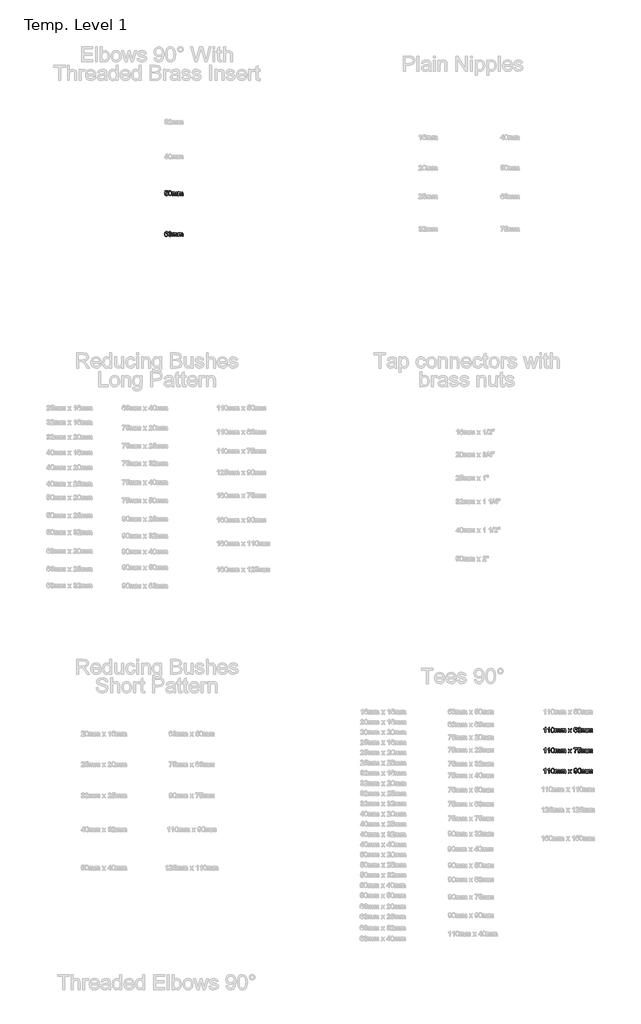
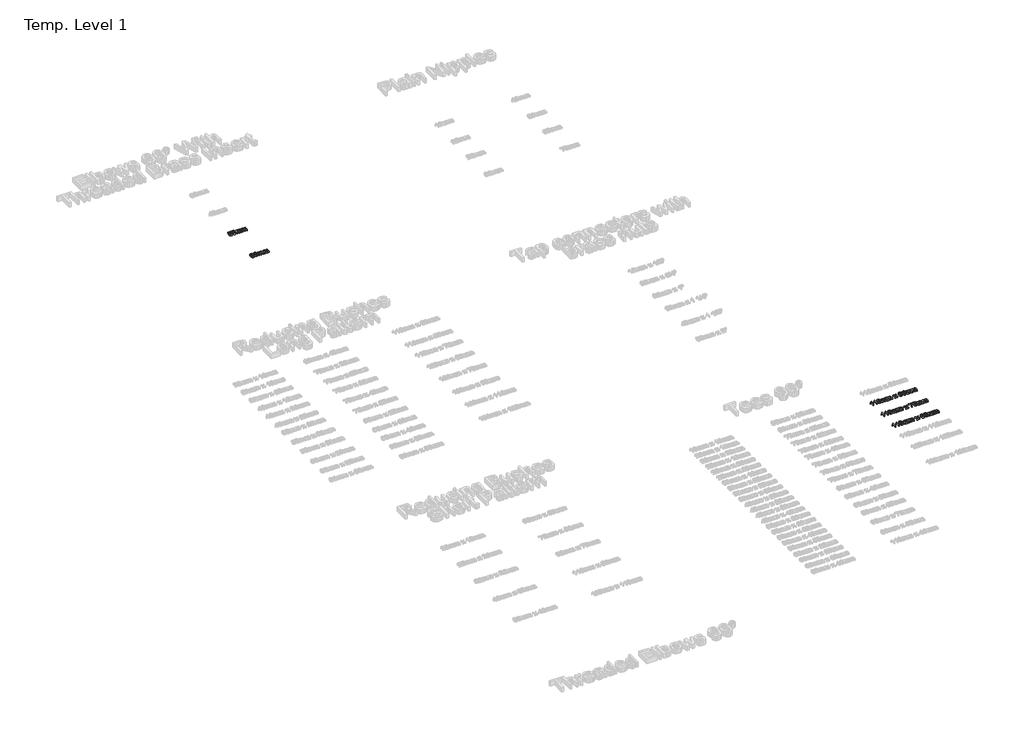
# One storey, part 50 of 62: 5 proxies.
"""IFC4 building model written with IfcOpenShell, lengths in millimetres."""

from ifc_helpers import new_model, si_unit, origin, origin_with_axes, place, context, project, spatial, polyline, outline, extrude, element, save

model = new_model("IFC4")

# Units and contexts
model_context = context("Model", 3, world=origin())
ifc_project = project(units=[si_unit("LENGTHUNIT", "METRE", prefix="MILLI")], contexts=[model_context])

# Site, building, storey
site = spatial("IfcSite", under=ifc_project)
building = spatial("IfcBuilding", under=site)
storey = spatial("IfcBuildingStorey", under=building, Name="Temp. Level 1", Elevation=0.0)

# Proxies
placement = place(None, origin())
element("IfcBuildingElementProxy", 1, Name="50mm Arial", ObjectType="50mm Arial", at=placement, inside=storey, context=model_context, shape_type="SweptSolid", body=[
    extrude(outline(polyline([(24495.3245939, -2277.1215939), (24501.4784401, -2276.3523632), (24504.5794016, -2282.6925074), (24511.0096901, -2284.8139016), (24518.7260362, -2281.8631805), (24521.4784401, -2274.0326516), (24518.9003151, -2266.7249593), (24511.1058439, -2264.0446709), (24505.7031997, -2265.1143824), (24502.2476708, -2267.8908247), (24496.0938247, -2267.1215939), (24501.4784401, -2241.7369786), (24525.3245939, -2241.7369786), (24525.3245939, -2247.8908247), (24506.4544016, -2247.8908247), (24503.8221901, -2261.448517), (24512.8245939, -2257.8908247), (24523.3474304, -2262.3018824), (24527.6322862, -2273.6480362), (24523.7741131, -2285.0663055), (24518.2332477, -2289.4923872), (24510.9856516, -2290.9677478), (24500.1262766, -2287.1756805), (24495.3245939, -2277.1215939)])), origin_with_axes(), (0.0, 0.0, 1.0), 15.0),
    extrude(outline(polyline([(24533.0169016, -2265.979767), (24534.8257958, -2251.8151036), (24540.198392, -2243.6480362), (24549.1707477, -2240.9677478), (24556.3582477, -2242.5542862), (24561.3221901, -2247.1276036), (24564.2068054, -2254.4112574), (24565.3245939, -2265.979767), (24563.5337285, -2280.0843343), (24558.1791612, -2288.2694305), (24549.1707477, -2290.9677478), (24537.9207477, -2286.2802478), (24534.2428631, -2277.9539257), (24533.0169016, -2265.979767)]), holes=[polyline([(24539.1707477, -2265.9677478), (24542.0553631, -2281.2501997), (24549.1707477, -2284.8139016), (24556.2861324, -2281.2381805), (24559.1707477, -2265.9677478), (24556.3822862, -2250.8595747), (24549.0986324, -2247.1215939), (24542.151517, -2250.4148632), (24539.1707477, -2265.9677478)])]), origin_with_axes(), (0.0, 0.0, 1.0), 15.0),
    extrude(outline(polyline([(24572.2476708, -2290.198517), (24572.2476708, -2254.0446709), (24578.401517, -2254.0446709), (24578.401517, -2259.9941901), (24582.6322862, -2255.120392), (24588.6539208, -2253.2754401), (24594.8197862, -2255.1564497), (24598.2092093, -2260.4268824), (24603.010892, -2255.0633007), (24609.0745939, -2253.2754401), (24617.1214689, -2256.2501997), (24619.9399785, -2265.4148632), (24619.9399785, -2290.198517), (24613.7861324, -2290.198517), (24613.7861324, -2268.0590939), (24613.2152189, -2262.9208728), (24611.1479112, -2260.3908247), (24607.6322862, -2259.4292862), (24601.5806035, -2261.8932286), (24599.1707477, -2269.7898632), (24599.1707477, -2290.198517), (24593.0169016, -2290.198517), (24593.0169016, -2267.3739978), (24591.5926227, -2261.4124593), (24586.9231516, -2259.4292862), (24582.3678631, -2260.7514016), (24579.339017, -2264.6215939), (24578.401517, -2271.9653439), (24578.401517, -2290.198517), (24572.2476708, -2290.198517)])), origin_with_axes(), (0.0, 0.0, 1.0), 15.0),
    extrude(outline(polyline([(24629.1707477, -2290.198517), (24629.1707477, -2254.0446709), (24635.3245939, -2254.0446709), (24635.3245939, -2259.9941901), (24639.5553631, -2255.120392), (24645.5769977, -2253.2754401), (24651.7428631, -2255.1564497), (24655.1322862, -2260.4268824), (24659.9339689, -2255.0633007), (24665.9976708, -2253.2754401), (24674.0445458, -2256.2501997), (24676.8630554, -2265.4148632), (24676.8630554, -2290.198517), (24670.7092093, -2290.198517), (24670.7092093, -2268.0590939), (24670.1382958, -2262.9208728), (24668.0709881, -2260.3908247), (24664.5553631, -2259.4292862), (24658.5036804, -2261.8932286), (24656.0938247, -2269.7898632), (24656.0938247, -2290.198517), (24649.9399785, -2290.198517), (24649.9399785, -2267.3739978), (24648.5156997, -2261.4124593), (24643.8462285, -2259.4292862), (24639.2909401, -2260.7514016), (24636.2620939, -2264.6215939), (24635.3245939, -2271.9653439), (24635.3245939, -2290.198517), (24629.1707477, -2290.198517)])), origin_with_axes(), (0.0, 0.0, 1.0), 15.0),
])
element("IfcBuildingElementProxy", 2, Name="50mm Arial", ObjectType="50mm Arial", at=placement, inside=storey, context=model_context, shape_type="SweptSolid", body=[
    extrude(outline(polyline([(24526.8630554, -2654.0446709), (24520.7092093, -2654.8139016), (24518.3774785, -2649.6816901), (24512.2116131, -2647.1215939), (24506.6587285, -2648.6119786), (24502.4580074, -2654.2069305), (24500.7092093, -2665.1744786), (24506.135892, -2660.2646228), (24512.8606516, -2658.6600555), (24523.3173824, -2663.0470747), (24527.6322862, -2674.3812093), (24525.6010362, -2682.8727959), (24520.0120939, -2688.8824112), (24511.9471901, -2690.9677478), (24499.4051227, -2685.4389016), (24495.767803, -2678.1191901), (24494.5553631, -2667.2177478), (24495.901517, -2654.9611372), (24499.9399785, -2646.5807286), (24505.4538006, -2642.370993), (24512.5962285, -2640.9677478), (24522.3197862, -2644.4413055), (24526.8630554, -2654.0446709)]), holes=[polyline([(24500.7092093, -2674.2850555), (24502.1334881, -2679.6155843), (24505.9195458, -2683.4857766), (24511.4664208, -2684.8139016), (24518.7200266, -2682.0614978), (24521.4784401, -2674.5855362), (24518.7560843, -2667.4280843), (24511.214017, -2664.8139016), (24503.7681035, -2667.4280843), (24500.7092093, -2674.2850555)])]), origin_with_axes(), (0.0, 0.0, 1.0), 15.0),
    extrude(outline(polyline([(24533.0169016, -2677.1215939), (24539.1707477, -2676.3523632), (24542.5661804, -2682.8307286), (24548.9183439, -2684.8139016), (24556.3943054, -2682.0855362), (24559.1707477, -2675.3307286), (24556.4183439, -2668.9665459), (24549.4231516, -2666.448517), (24545.1082477, -2667.1215939), (24545.7933439, -2660.9677478), (24553.7620939, -2659.2730362), (24556.8630554, -2653.8403439), (24554.6154593, -2649.026642), (24548.8221901, -2647.1215939), (24542.9568054, -2649.0446709), (24539.9399785, -2654.8139016), (24533.7861324, -2654.0446709), (24538.8221901, -2644.3932286), (24548.6058439, -2640.9677478), (24556.0277189, -2642.6564497), (24561.2200266, -2647.2718343), (24563.0169016, -2653.479767), (24561.3101708, -2659.1528439), (24556.2620939, -2663.2273632), (24562.9688247, -2667.4340939), (24565.3245939, -2675.4389016), (24560.6130554, -2686.448517), (24548.7019977, -2690.9677478), (24537.9087285, -2687.1095747), (24533.0169016, -2677.1215939)])), origin_with_axes(), (0.0, 0.0, 1.0), 15.0),
    extrude(outline(polyline([(24572.2476708, -2690.198517), (24572.2476708, -2654.0446709), (24578.401517, -2654.0446709), (24578.401517, -2659.9941901), (24582.6322862, -2655.120392), (24588.6539208, -2653.2754401), (24594.8197862, -2655.1564497), (24598.2092093, -2660.4268824), (24603.010892, -2655.0633007), (24609.0745939, -2653.2754401), (24617.1214689, -2656.2501997), (24619.9399785, -2665.4148632), (24619.9399785, -2690.198517), (24613.7861324, -2690.198517), (24613.7861324, -2668.0590939), (24613.2152189, -2662.9208728), (24611.1479112, -2660.3908247), (24607.6322862, -2659.4292862), (24601.5806035, -2661.8932286), (24599.1707477, -2669.7898632), (24599.1707477, -2690.198517), (24593.0169016, -2690.198517), (24593.0169016, -2667.3739978), (24591.5926227, -2661.4124593), (24586.9231516, -2659.4292862), (24582.3678631, -2660.7514016), (24579.339017, -2664.6215939), (24578.401517, -2671.9653439), (24578.401517, -2690.198517), (24572.2476708, -2690.198517)])), origin_with_axes(), (0.0, 0.0, 1.0), 15.0),
    extrude(outline(polyline([(24629.1707477, -2690.198517), (24629.1707477, -2654.0446709), (24635.3245939, -2654.0446709), (24635.3245939, -2659.9941901), (24639.5553631, -2655.120392), (24645.5769977, -2653.2754401), (24651.7428631, -2655.1564497), (24655.1322862, -2660.4268824), (24659.9339689, -2655.0633007), (24665.9976708, -2653.2754401), (24674.0445458, -2656.2501997), (24676.8630554, -2665.4148632), (24676.8630554, -2690.198517), (24670.7092093, -2690.198517), (24670.7092093, -2668.0590939), (24670.1382958, -2662.9208728), (24668.0709881, -2660.3908247), (24664.5553631, -2659.4292862), (24658.5036804, -2661.8932286), (24656.0938247, -2669.7898632), (24656.0938247, -2690.198517), (24649.9399785, -2690.198517), (24649.9399785, -2667.3739978), (24648.5156997, -2661.4124593), (24643.8462285, -2659.4292862), (24639.2909401, -2660.7514016), (24636.2620939, -2664.6215939), (24635.3245939, -2671.9653439), (24635.3245939, -2690.198517), (24629.1707477, -2690.198517)])), origin_with_axes(), (0.0, 0.0, 1.0), 15.0),
])
element("IfcBuildingElementProxy", 3, Name="50mm Arial", ObjectType="50mm Arial", at=placement, inside=storey, context=model_context, shape_type="SweptSolid", body=[
    extrude(outline(polyline([(28231.5860907, -7549.5564984), (28225.4322446, -7549.5564984), (28225.4322446, -7511.1911138), (28219.6029177, -7515.3437581), (28213.1245523, -7518.4507292), (28213.1245523, -7512.6334215), (28222.144985, -7506.87621), (28227.6197446, -7500.3257292), (28231.5860907, -7500.3257292), (28231.5860907, -7549.5564984)])), origin_with_axes(), (0.0, 0.0, 1.0), 15.0),
    extrude(outline(polyline([(28269.2783984, -7549.5564984), (28263.1245523, -7549.5564984), (28263.1245523, -7511.1911138), (28257.2952253, -7515.3437581), (28250.81686, -7518.4507292), (28250.81686, -7512.6334215), (28259.8372927, -7506.87621), (28265.3120523, -7500.3257292), (28269.2783984, -7500.3257292), (28269.2783984, -7549.5564984)])), origin_with_axes(), (0.0, 0.0, 1.0), 15.0),
    extrude(outline(polyline([(28283.893783, -7525.3377484), (28285.7026773, -7511.173085), (28291.0752734, -7503.0060177), (28300.0476292, -7500.3257292), (28307.2351292, -7501.9122677), (28312.1990715, -7506.485585), (28315.0836869, -7513.7692388), (28316.2014753, -7525.3377484), (28314.41061, -7539.4423158), (28309.0560427, -7547.6274119), (28300.0476292, -7550.3257292), (28288.7976292, -7545.6382292), (28285.1197446, -7537.3119071), (28283.893783, -7525.3377484)]), holes=[polyline([(28290.0476292, -7525.3257292), (28292.9322446, -7540.6081811), (28300.0476292, -7544.1718831), (28307.1630138, -7540.5961619), (28310.0476292, -7525.3257292), (28307.2591677, -7510.2175561), (28299.9755138, -7506.4795754), (28293.0283984, -7509.7728446), (28290.0476292, -7525.3257292)])]), origin_with_axes(), (0.0, 0.0, 1.0), 15.0),
    extrude(outline(polyline([(28323.1245523, -7549.5564984), (28323.1245523, -7513.4026523), (28329.2783984, -7513.4026523), (28329.2783984, -7519.3521715), (28333.5091677, -7514.4783734), (28339.5308023, -7512.6334215), (28345.6966677, -7514.5144311), (28349.0860907, -7519.7848638), (28353.8877734, -7514.4212821), (28359.9514753, -7512.6334215), (28367.9983503, -7515.6081811), (28370.81686, -7524.7728446), (28370.81686, -7549.5564984), (28364.6630138, -7549.5564984), (28364.6630138, -7527.4170754), (28364.0921003, -7522.2788542), (28362.0247927, -7519.7488061), (28358.5091677, -7518.7872677), (28352.457485, -7521.25121), (28350.0476292, -7529.1478446), (28350.0476292, -7549.5564984), (28343.893783, -7549.5564984), (28343.893783, -7526.7319792), (28342.4695042, -7520.7704408), (28337.800033, -7518.7872677), (28333.2447446, -7520.1093831), (28330.2158984, -7523.9795754), (28329.2783984, -7531.3233254), (28329.2783984, -7549.5564984), (28323.1245523, -7549.5564984)])), origin_with_axes(), (0.0, 0.0, 1.0), 15.0),
    extrude(outline(polyline([(28380.0476292, -7549.5564984), (28380.0476292, -7513.4026523), (28386.2014753, -7513.4026523), (28386.2014753, -7519.3521715), (28390.4322446, -7514.4783734), (28396.4538792, -7512.6334215), (28402.6197446, -7514.5144311), (28406.0091677, -7519.7848638), (28410.8108503, -7514.4212821), (28416.8745523, -7512.6334215), (28424.9214273, -7515.6081811), (28427.7399369, -7524.7728446), (28427.7399369, -7549.5564984), (28421.5860907, -7549.5564984), (28421.5860907, -7527.4170754), (28421.0151773, -7522.2788542), (28418.9478696, -7519.7488061), (28415.4322446, -7518.7872677), (28409.3805619, -7521.25121), (28406.9707061, -7529.1478446), (28406.9707061, -7549.5564984), (28400.81686, -7549.5564984), (28400.81686, -7526.7319792), (28399.3925811, -7520.7704408), (28394.72311, -7518.7872677), (28390.1678215, -7520.1093831), (28387.1389753, -7523.9795754), (28386.2014753, -7531.3233254), (28386.2014753, -7549.5564984), (28380.0476292, -7549.5564984)])), origin_with_axes(), (0.0, 0.0, 1.0), 15.0),
    extrude(outline(polyline([(28452.3553215, -7549.5564984), (28465.50436, -7531.3834215), (28453.1245523, -7513.4026523), (28460.5283984, -7513.4026523), (28466.5019561, -7522.0564984), (28469.2904177, -7526.1430369), (28471.706283, -7522.8016908), (28478.5091677, -7513.4026523), (28485.9130138, -7513.4026523), (28472.9082061, -7531.3834215), (28485.4322446, -7549.5564984), (28478.0283984, -7549.5564984), (28470.4923407, -7538.6310177), (28469.1101292, -7536.6358254), (28459.7591677, -7549.5564984), (28452.3553215, -7549.5564984)])), origin_with_axes(), (0.0, 0.0, 1.0), 15.0),
    extrude(outline(polyline([(28540.0476292, -7513.4026523), (28533.893783, -7514.1718831), (28531.5620523, -7509.0396715), (28525.3961869, -7506.4795754), (28519.8433023, -7507.96996), (28515.6425811, -7513.5649119), (28513.893783, -7524.53246), (28519.3204657, -7519.6226042), (28526.0452253, -7518.0180369), (28536.5019561, -7522.4050561), (28540.81686, -7533.7391908), (28538.78561, -7542.2307773), (28533.1966677, -7548.2403927), (28525.1317638, -7550.3257292), (28512.5896965, -7544.7968831), (28508.9523768, -7537.4771715), (28507.7399369, -7526.5757292), (28509.0860907, -7514.3191186), (28513.1245523, -7505.93871), (28518.6383744, -7501.7289744), (28525.7808023, -7500.3257292), (28535.50436, -7503.7992869), (28540.0476292, -7513.4026523)]), holes=[polyline([(28513.893783, -7533.6430369), (28515.3180619, -7538.9735658), (28519.1041196, -7542.8437581), (28524.6509946, -7544.1718831), (28531.9046003, -7541.4194792), (28534.6630138, -7533.9435177), (28531.940658, -7526.7860658), (28524.3985907, -7524.1718831), (28516.9526773, -7526.7860658), (28513.893783, -7533.6430369)])]), origin_with_axes(), (0.0, 0.0, 1.0), 15.0),
    extrude(outline(polyline([(28546.2014753, -7536.4795754), (28552.3553215, -7535.7103446), (28555.7507542, -7542.18871), (28562.1029177, -7544.1718831), (28569.5788792, -7541.4435177), (28572.3553215, -7534.68871), (28569.6029177, -7528.3245273), (28562.6077253, -7525.8064984), (28558.2928215, -7526.4795754), (28558.9779177, -7520.3257292), (28566.9466677, -7518.6310177), (28570.0476292, -7513.1983254), (28567.800033, -7508.3846234), (28562.0067638, -7506.4795754), (28556.1413792, -7508.4026523), (28553.1245523, -7514.1718831), (28546.9707061, -7513.4026523), (28552.0067638, -7503.75121), (28561.7904177, -7500.3257292), (28569.2122927, -7502.0144311), (28574.4046003, -7506.6298158), (28576.2014753, -7512.8377484), (28574.4947446, -7518.5108254), (28569.4466677, -7522.5853446), (28576.1533984, -7526.7920754), (28578.5091677, -7534.7968831), (28573.7976292, -7545.8064984), (28561.8865715, -7550.3257292), (28551.0933023, -7546.4675561), (28546.2014753, -7536.4795754)])), origin_with_axes(), (0.0, 0.0, 1.0), 15.0),
    extrude(outline(polyline([(28585.4322446, -7549.5564984), (28585.4322446, -7513.4026523), (28591.5860907, -7513.4026523), (28591.5860907, -7519.3521715), (28595.81686, -7514.4783734), (28601.8384946, -7512.6334215), (28608.00436, -7514.5144311), (28611.393783, -7519.7848638), (28616.1954657, -7514.4212821), (28622.2591677, -7512.6334215), (28630.3060427, -7515.6081811), (28633.1245523, -7524.7728446), (28633.1245523, -7549.5564984), (28626.9707061, -7549.5564984), (28626.9707061, -7527.4170754), (28626.3997927, -7522.2788542), (28624.332485, -7519.7488061), (28620.81686, -7518.7872677), (28614.7651773, -7521.25121), (28612.3553215, -7529.1478446), (28612.3553215, -7549.5564984), (28606.2014753, -7549.5564984), (28606.2014753, -7526.7319792), (28604.7771965, -7520.7704408), (28600.1077253, -7518.7872677), (28595.5524369, -7520.1093831), (28592.5235907, -7523.9795754), (28591.5860907, -7531.3233254), (28591.5860907, -7549.5564984), (28585.4322446, -7549.5564984)])), origin_with_axes(), (0.0, 0.0, 1.0), 15.0),
    extrude(outline(polyline([(28642.3553215, -7549.5564984), (28642.3553215, -7513.4026523), (28648.5091677, -7513.4026523), (28648.5091677, -7519.3521715), (28652.7399369, -7514.4783734), (28658.7615715, -7512.6334215), (28664.9274369, -7514.5144311), (28668.31686, -7519.7848638), (28673.1185427, -7514.4212821), (28679.1822446, -7512.6334215), (28687.2291196, -7515.6081811), (28690.0476292, -7524.7728446), (28690.0476292, -7549.5564984), (28683.893783, -7549.5564984), (28683.893783, -7527.4170754), (28683.3228696, -7522.2788542), (28681.2555619, -7519.7488061), (28677.7399369, -7518.7872677), (28671.6882542, -7521.25121), (28669.2783984, -7529.1478446), (28669.2783984, -7549.5564984), (28663.1245523, -7549.5564984), (28663.1245523, -7526.7319792), (28661.7002734, -7520.7704408), (28657.0308023, -7518.7872677), (28652.4755138, -7520.1093831), (28649.4466677, -7523.9795754), (28648.5091677, -7531.3233254), (28648.5091677, -7549.5564984), (28642.3553215, -7549.5564984)])), origin_with_axes(), (0.0, 0.0, 1.0), 15.0),
])
element("IfcBuildingElementProxy", 4, Name="50mm Arial", ObjectType="50mm Arial", at=placement, inside=storey, context=model_context, shape_type="SweptSolid", body=[
    extrude(outline(polyline([(28231.5860907, -7749.5564984), (28225.4322446, -7749.5564984), (28225.4322446, -7711.1911138), (28219.6029177, -7715.3437581), (28213.1245523, -7718.4507292), (28213.1245523, -7712.6334215), (28222.144985, -7706.87621), (28227.6197446, -7700.3257292), (28231.5860907, -7700.3257292), (28231.5860907, -7749.5564984)])), origin_with_axes(), (0.0, 0.0, 1.0), 15.0),
    extrude(outline(polyline([(28269.2783984, -7749.5564984), (28263.1245523, -7749.5564984), (28263.1245523, -7711.1911138), (28257.2952253, -7715.3437581), (28250.81686, -7718.4507292), (28250.81686, -7712.6334215), (28259.8372927, -7706.87621), (28265.3120523, -7700.3257292), (28269.2783984, -7700.3257292), (28269.2783984, -7749.5564984)])), origin_with_axes(), (0.0, 0.0, 1.0), 15.0),
    extrude(outline(polyline([(28283.893783, -7725.3377484), (28285.7026773, -7711.173085), (28291.0752734, -7703.0060177), (28300.0476292, -7700.3257292), (28307.2351292, -7701.9122677), (28312.1990715, -7706.485585), (28315.0836869, -7713.7692388), (28316.2014753, -7725.3377484), (28314.41061, -7739.4423158), (28309.0560427, -7747.6274119), (28300.0476292, -7750.3257292), (28288.7976292, -7745.6382292), (28285.1197446, -7737.3119071), (28283.893783, -7725.3377484)]), holes=[polyline([(28290.0476292, -7725.3257292), (28292.9322446, -7740.6081811), (28300.0476292, -7744.1718831), (28307.1630138, -7740.5961619), (28310.0476292, -7725.3257292), (28307.2591677, -7710.2175561), (28299.9755138, -7706.4795754), (28293.0283984, -7709.7728446), (28290.0476292, -7725.3257292)])]), origin_with_axes(), (0.0, 0.0, 1.0), 15.0),
    extrude(outline(polyline([(28323.1245523, -7749.5564984), (28323.1245523, -7713.4026523), (28329.2783984, -7713.4026523), (28329.2783984, -7719.3521715), (28333.5091677, -7714.4783734), (28339.5308023, -7712.6334215), (28345.6966677, -7714.5144311), (28349.0860907, -7719.7848638), (28353.8877734, -7714.4212821), (28359.9514753, -7712.6334215), (28367.9983503, -7715.6081811), (28370.81686, -7724.7728446), (28370.81686, -7749.5564984), (28364.6630138, -7749.5564984), (28364.6630138, -7727.4170754), (28364.0921003, -7722.2788542), (28362.0247927, -7719.7488061), (28358.5091677, -7718.7872677), (28352.457485, -7721.25121), (28350.0476292, -7729.1478446), (28350.0476292, -7749.5564984), (28343.893783, -7749.5564984), (28343.893783, -7726.7319792), (28342.4695042, -7720.7704408), (28337.800033, -7718.7872677), (28333.2447446, -7720.1093831), (28330.2158984, -7723.9795754), (28329.2783984, -7731.3233254), (28329.2783984, -7749.5564984), (28323.1245523, -7749.5564984)])), origin_with_axes(), (0.0, 0.0, 1.0), 15.0),
    extrude(outline(polyline([(28380.0476292, -7749.5564984), (28380.0476292, -7713.4026523), (28386.2014753, -7713.4026523), (28386.2014753, -7719.3521715), (28390.4322446, -7714.4783734), (28396.4538792, -7712.6334215), (28402.6197446, -7714.5144311), (28406.0091677, -7719.7848638), (28410.8108503, -7714.4212821), (28416.8745523, -7712.6334215), (28424.9214273, -7715.6081811), (28427.7399369, -7724.7728446), (28427.7399369, -7749.5564984), (28421.5860907, -7749.5564984), (28421.5860907, -7727.4170754), (28421.0151773, -7722.2788542), (28418.9478696, -7719.7488061), (28415.4322446, -7718.7872677), (28409.3805619, -7721.25121), (28406.9707061, -7729.1478446), (28406.9707061, -7749.5564984), (28400.81686, -7749.5564984), (28400.81686, -7726.7319792), (28399.3925811, -7720.7704408), (28394.72311, -7718.7872677), (28390.1678215, -7720.1093831), (28387.1389753, -7723.9795754), (28386.2014753, -7731.3233254), (28386.2014753, -7749.5564984), (28380.0476292, -7749.5564984)])), origin_with_axes(), (0.0, 0.0, 1.0), 15.0),
    extrude(outline(polyline([(28452.3553215, -7749.5564984), (28465.50436, -7731.3834215), (28453.1245523, -7713.4026523), (28460.5283984, -7713.4026523), (28466.5019561, -7722.0564984), (28469.2904177, -7726.1430369), (28471.706283, -7722.8016908), (28478.5091677, -7713.4026523), (28485.9130138, -7713.4026523), (28472.9082061, -7731.3834215), (28485.4322446, -7749.5564984), (28478.0283984, -7749.5564984), (28470.4923407, -7738.6310177), (28469.1101292, -7736.6358254), (28459.7591677, -7749.5564984), (28452.3553215, -7749.5564984)])), origin_with_axes(), (0.0, 0.0, 1.0), 15.0),
    extrude(outline(polyline([(28508.5091677, -7707.2488061), (28508.5091677, -7701.09496), (28540.81686, -7701.09496), (28540.81686, -7706.0709215), (28531.6521965, -7719.3101042), (28524.6389753, -7736.1790946), (28522.3553215, -7749.5564984), (28516.2014753, -7749.5564984), (28518.6473888, -7735.6742869), (28525.3601292, -7719.9831811), (28534.6630138, -7707.2488061), (28508.5091677, -7707.2488061)])), origin_with_axes(), (0.0, 0.0, 1.0), 15.0),
    extrude(outline(polyline([(28546.2014753, -7736.4795754), (28552.3553215, -7735.7103446), (28555.456283, -7742.0504888), (28561.8865715, -7744.1718831), (28569.6029177, -7741.2211619), (28572.3553215, -7733.3906331), (28569.7771965, -7726.0829408), (28561.9827253, -7723.4026523), (28556.5800811, -7724.4723638), (28553.1245523, -7727.2488061), (28546.9707061, -7726.4795754), (28552.3553215, -7701.09496), (28576.2014753, -7701.09496), (28576.2014753, -7707.2488061), (28557.331283, -7707.2488061), (28554.6990715, -7720.8064984), (28563.7014753, -7717.2488061), (28574.2243119, -7721.6598638), (28578.5091677, -7733.0060177), (28574.6509946, -7744.4242869), (28569.1101292, -7748.8503686), (28561.862533, -7750.3257292), (28551.003158, -7746.5336619), (28546.2014753, -7736.4795754)])), origin_with_axes(), (0.0, 0.0, 1.0), 15.0),
    extrude(outline(polyline([(28585.4322446, -7749.5564984), (28585.4322446, -7713.4026523), (28591.5860907, -7713.4026523), (28591.5860907, -7719.3521715), (28595.81686, -7714.4783734), (28601.8384946, -7712.6334215), (28608.00436, -7714.5144311), (28611.393783, -7719.7848638), (28616.1954657, -7714.4212821), (28622.2591677, -7712.6334215), (28630.3060427, -7715.6081811), (28633.1245523, -7724.7728446), (28633.1245523, -7749.5564984), (28626.9707061, -7749.5564984), (28626.9707061, -7727.4170754), (28626.3997927, -7722.2788542), (28624.332485, -7719.7488061), (28620.81686, -7718.7872677), (28614.7651773, -7721.25121), (28612.3553215, -7729.1478446), (28612.3553215, -7749.5564984), (28606.2014753, -7749.5564984), (28606.2014753, -7726.7319792), (28604.7771965, -7720.7704408), (28600.1077253, -7718.7872677), (28595.5524369, -7720.1093831), (28592.5235907, -7723.9795754), (28591.5860907, -7731.3233254), (28591.5860907, -7749.5564984), (28585.4322446, -7749.5564984)])), origin_with_axes(), (0.0, 0.0, 1.0), 15.0),
    extrude(outline(polyline([(28642.3553215, -7749.5564984), (28642.3553215, -7713.4026523), (28648.5091677, -7713.4026523), (28648.5091677, -7719.3521715), (28652.7399369, -7714.4783734), (28658.7615715, -7712.6334215), (28664.9274369, -7714.5144311), (28668.31686, -7719.7848638), (28673.1185427, -7714.4212821), (28679.1822446, -7712.6334215), (28687.2291196, -7715.6081811), (28690.0476292, -7724.7728446), (28690.0476292, -7749.5564984), (28683.893783, -7749.5564984), (28683.893783, -7727.4170754), (28683.3228696, -7722.2788542), (28681.2555619, -7719.7488061), (28677.7399369, -7718.7872677), (28671.6882542, -7721.25121), (28669.2783984, -7729.1478446), (28669.2783984, -7749.5564984), (28663.1245523, -7749.5564984), (28663.1245523, -7726.7319792), (28661.7002734, -7720.7704408), (28657.0308023, -7718.7872677), (28652.4755138, -7720.1093831), (28649.4466677, -7723.9795754), (28648.5091677, -7731.3233254), (28648.5091677, -7749.5564984), (28642.3553215, -7749.5564984)])), origin_with_axes(), (0.0, 0.0, 1.0), 15.0),
])
element("IfcBuildingElementProxy", 5, Name="50mm Arial", ObjectType="50mm Arial", at=placement, inside=storey, context=model_context, shape_type="SweptSolid", body=[
    extrude(outline(polyline([(28231.5860907, -7949.5564984), (28225.4322446, -7949.5564984), (28225.4322446, -7911.1911138), (28219.6029177, -7915.3437581), (28213.1245523, -7918.4507292), (28213.1245523, -7912.6334215), (28222.144985, -7906.87621), (28227.6197446, -7900.3257292), (28231.5860907, -7900.3257292), (28231.5860907, -7949.5564984)])), origin_with_axes(), (0.0, 0.0, 1.0), 15.0),
    extrude(outline(polyline([(28269.2783984, -7949.5564984), (28263.1245523, -7949.5564984), (28263.1245523, -7911.1911138), (28257.2952253, -7915.3437581), (28250.81686, -7918.4507292), (28250.81686, -7912.6334215), (28259.8372927, -7906.87621), (28265.3120523, -7900.3257292), (28269.2783984, -7900.3257292), (28269.2783984, -7949.5564984)])), origin_with_axes(), (0.0, 0.0, 1.0), 15.0),
    extrude(outline(polyline([(28283.893783, -7925.3377484), (28285.7026773, -7911.173085), (28291.0752734, -7903.0060177), (28300.0476292, -7900.3257292), (28307.2351292, -7901.9122677), (28312.1990715, -7906.485585), (28315.0836869, -7913.7692388), (28316.2014753, -7925.3377484), (28314.41061, -7939.4423158), (28309.0560427, -7947.6274119), (28300.0476292, -7950.3257292), (28288.7976292, -7945.6382292), (28285.1197446, -7937.3119071), (28283.893783, -7925.3377484)]), holes=[polyline([(28290.0476292, -7925.3257292), (28292.9322446, -7940.6081811), (28300.0476292, -7944.1718831), (28307.1630138, -7940.5961619), (28310.0476292, -7925.3257292), (28307.2591677, -7910.2175561), (28299.9755138, -7906.4795754), (28293.0283984, -7909.7728446), (28290.0476292, -7925.3257292)])]), origin_with_axes(), (0.0, 0.0, 1.0), 15.0),
    extrude(outline(polyline([(28323.1245523, -7949.5564984), (28323.1245523, -7913.4026523), (28329.2783984, -7913.4026523), (28329.2783984, -7919.3521715), (28333.5091677, -7914.4783734), (28339.5308023, -7912.6334215), (28345.6966677, -7914.5144311), (28349.0860907, -7919.7848638), (28353.8877734, -7914.4212821), (28359.9514753, -7912.6334215), (28367.9983503, -7915.6081811), (28370.81686, -7924.7728446), (28370.81686, -7949.5564984), (28364.6630138, -7949.5564984), (28364.6630138, -7927.4170754), (28364.0921003, -7922.2788542), (28362.0247927, -7919.7488061), (28358.5091677, -7918.7872677), (28352.457485, -7921.25121), (28350.0476292, -7929.1478446), (28350.0476292, -7949.5564984), (28343.893783, -7949.5564984), (28343.893783, -7926.7319792), (28342.4695042, -7920.7704408), (28337.800033, -7918.7872677), (28333.2447446, -7920.1093831), (28330.2158984, -7923.9795754), (28329.2783984, -7931.3233254), (28329.2783984, -7949.5564984), (28323.1245523, -7949.5564984)])), origin_with_axes(), (0.0, 0.0, 1.0), 15.0),
    extrude(outline(polyline([(28380.0476292, -7949.5564984), (28380.0476292, -7913.4026523), (28386.2014753, -7913.4026523), (28386.2014753, -7919.3521715), (28390.4322446, -7914.4783734), (28396.4538792, -7912.6334215), (28402.6197446, -7914.5144311), (28406.0091677, -7919.7848638), (28410.8108503, -7914.4212821), (28416.8745523, -7912.6334215), (28424.9214273, -7915.6081811), (28427.7399369, -7924.7728446), (28427.7399369, -7949.5564984), (28421.5860907, -7949.5564984), (28421.5860907, -7927.4170754), (28421.0151773, -7922.2788542), (28418.9478696, -7919.7488061), (28415.4322446, -7918.7872677), (28409.3805619, -7921.25121), (28406.9707061, -7929.1478446), (28406.9707061, -7949.5564984), (28400.81686, -7949.5564984), (28400.81686, -7926.7319792), (28399.3925811, -7920.7704408), (28394.72311, -7918.7872677), (28390.1678215, -7920.1093831), (28387.1389753, -7923.9795754), (28386.2014753, -7931.3233254), (28386.2014753, -7949.5564984), (28380.0476292, -7949.5564984)])), origin_with_axes(), (0.0, 0.0, 1.0), 15.0),
    extrude(outline(polyline([(28452.3553215, -7949.5564984), (28465.50436, -7931.3834215), (28453.1245523, -7913.4026523), (28460.5283984, -7913.4026523), (28466.5019561, -7922.0564984), (28469.2904177, -7926.1430369), (28471.706283, -7922.8016908), (28478.5091677, -7913.4026523), (28485.9130138, -7913.4026523), (28472.9082061, -7931.3834215), (28485.4322446, -7949.5564984), (28478.0283984, -7949.5564984), (28470.4923407, -7938.6310177), (28469.1101292, -7936.6358254), (28459.7591677, -7949.5564984), (28452.3553215, -7949.5564984)])), origin_with_axes(), (0.0, 0.0, 1.0), 15.0),
    extrude(outline(polyline([(28509.2783984, -7937.2488061), (28515.4322446, -7936.4795754), (28518.1966677, -7942.3509696), (28523.4370523, -7944.1718831), (28528.4190234, -7943.0000081), (28531.7964273, -7939.8689984), (28533.8096484, -7934.5204408), (28534.6990715, -7927.3810177), (28529.7411388, -7930.8425561), (28522.9923407, -7932.6334215), (28512.7098888, -7928.2584215), (28508.5091677, -7916.7319792), (28512.9142157, -7904.8329408), (28523.9538792, -7900.3257292), (28532.721908, -7902.8978446), (28538.7555619, -7910.2295754), (28540.81686, -7924.0036138), (28538.7615715, -7938.9495273), (28532.6497927, -7947.4170754), (28523.1485907, -7950.3257292), (28513.6894561, -7946.8942388), (28509.2783984, -7937.2488061)]), holes=[polyline([(28534.6630138, -7916.5877484), (28532.0067638, -7909.2079408), (28524.9514753, -7906.4795754), (28517.5476292, -7909.4182773), (28514.6630138, -7917.03246), (28517.3913792, -7923.8533734), (28524.7832061, -7926.4795754), (28531.8805619, -7923.8533734), (28534.6630138, -7916.5877484)])]), origin_with_axes(), (0.0, 0.0, 1.0), 15.0),
    extrude(outline(polyline([(28546.2014753, -7925.3377484), (28548.0103696, -7911.173085), (28553.3829657, -7903.0060177), (28562.3553215, -7900.3257292), (28569.5428215, -7901.9122677), (28574.5067638, -7906.485585), (28577.3913792, -7913.7692388), (28578.5091677, -7925.3377484), (28576.7183023, -7939.4423158), (28571.363735, -7947.6274119), (28562.3553215, -7950.3257292), (28551.1053215, -7945.6382292), (28547.4274369, -7937.3119071), (28546.2014753, -7925.3377484)]), holes=[polyline([(28552.3553215, -7925.3257292), (28555.2399369, -7940.6081811), (28562.3553215, -7944.1718831), (28569.4707061, -7940.5961619), (28572.3553215, -7925.3257292), (28569.56686, -7910.2175561), (28562.2832061, -7906.4795754), (28555.3360907, -7909.7728446), (28552.3553215, -7925.3257292)])]), origin_with_axes(), (0.0, 0.0, 1.0), 15.0),
    extrude(outline(polyline([(28585.4322446, -7949.5564984), (28585.4322446, -7913.4026523), (28591.5860907, -7913.4026523), (28591.5860907, -7919.3521715), (28595.81686, -7914.4783734), (28601.8384946, -7912.6334215), (28608.00436, -7914.5144311), (28611.393783, -7919.7848638), (28616.1954657, -7914.4212821), (28622.2591677, -7912.6334215), (28630.3060427, -7915.6081811), (28633.1245523, -7924.7728446), (28633.1245523, -7949.5564984), (28626.9707061, -7949.5564984), (28626.9707061, -7927.4170754), (28626.3997927, -7922.2788542), (28624.332485, -7919.7488061), (28620.81686, -7918.7872677), (28614.7651773, -7921.25121), (28612.3553215, -7929.1478446), (28612.3553215, -7949.5564984), (28606.2014753, -7949.5564984), (28606.2014753, -7926.7319792), (28604.7771965, -7920.7704408), (28600.1077253, -7918.7872677), (28595.5524369, -7920.1093831), (28592.5235907, -7923.9795754), (28591.5860907, -7931.3233254), (28591.5860907, -7949.5564984), (28585.4322446, -7949.5564984)])), origin_with_axes(), (0.0, 0.0, 1.0), 15.0),
    extrude(outline(polyline([(28642.3553215, -7949.5564984), (28642.3553215, -7913.4026523), (28648.5091677, -7913.4026523), (28648.5091677, -7919.3521715), (28652.7399369, -7914.4783734), (28658.7615715, -7912.6334215), (28664.9274369, -7914.5144311), (28668.31686, -7919.7848638), (28673.1185427, -7914.4212821), (28679.1822446, -7912.6334215), (28687.2291196, -7915.6081811), (28690.0476292, -7924.7728446), (28690.0476292, -7949.5564984), (28683.893783, -7949.5564984), (28683.893783, -7927.4170754), (28683.3228696, -7922.2788542), (28681.2555619, -7919.7488061), (28677.7399369, -7918.7872677), (28671.6882542, -7921.25121), (28669.2783984, -7929.1478446), (28669.2783984, -7949.5564984), (28663.1245523, -7949.5564984), (28663.1245523, -7926.7319792), (28661.7002734, -7920.7704408), (28657.0308023, -7918.7872677), (28652.4755138, -7920.1093831), (28649.4466677, -7923.9795754), (28648.5091677, -7931.3233254), (28648.5091677, -7949.5564984), (28642.3553215, -7949.5564984)])), origin_with_axes(), (0.0, 0.0, 1.0), 15.0),
])

save(model, "model.ifc")
